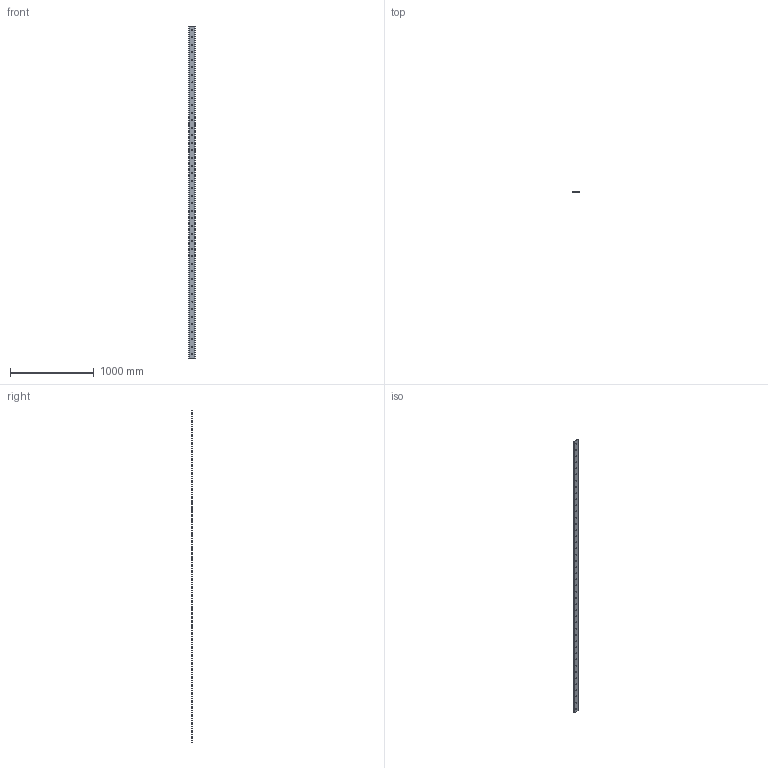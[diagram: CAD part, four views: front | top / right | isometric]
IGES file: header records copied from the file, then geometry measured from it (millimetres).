
Start section: 3D InterOp IGES (v. 2019 1.0.2), Spatial Corp. Copyright (c) 1999-2017.
Global section: file name: SS L76 3956.igs; native system: Spatial Corp.; preprocessor: 3D InterOp GENERIC/IGES 3.0; author: Noname; organization: Noname; date: 20220628.112213; units: millimetre
Bounding box: 75.68 x 9.1 x 3956 mm (x, y, z)
Surface area: 631395.3 mm2 (no closed solid volume)
Topology: 0 solids, 0 shells, 100 faces, 588 edges, 588 vertices
Faces by surface type: revolution 92, extrusion 8
